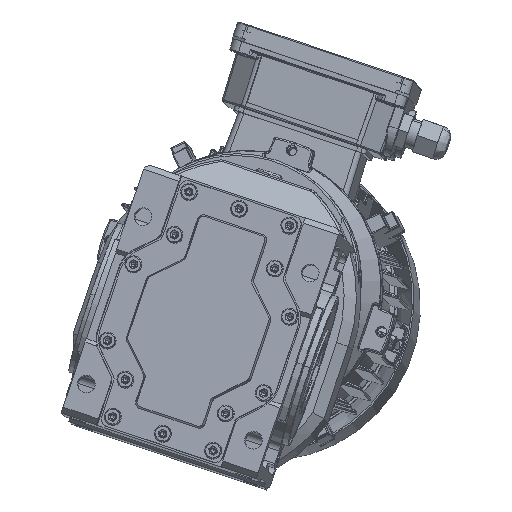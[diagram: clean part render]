
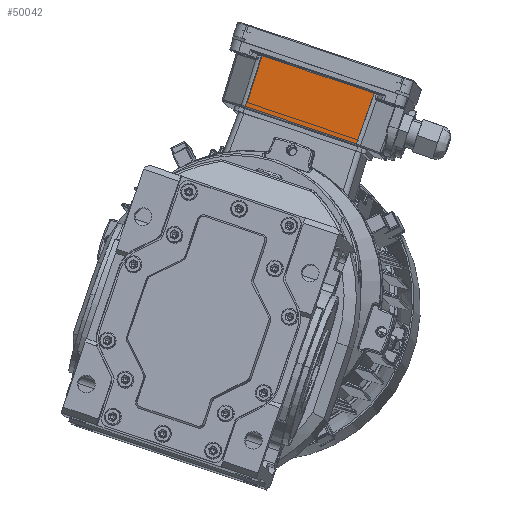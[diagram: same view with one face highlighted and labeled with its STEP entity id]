
A CAD part, top view. The second image highlights one B-rep face of the part: STEP entity #50042.
In plain terms, the highlighted planar face has unit normal (-0.057, 0.015, 0.998) as drawn and (0, -0.035, -0.999) by its records, which use the part's own axes.
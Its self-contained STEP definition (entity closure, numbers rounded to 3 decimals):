
#24000 = FACE_OUTER_BOUND ( 'NONE', #221983, .T. ) ;
#26113 = CARTESIAN_POINT ( 'NONE',  ( 29.944, 85.224, -85.357 ) ) ;
#26257 = CARTESIAN_POINT ( 'NONE',  ( -29.944, 85.224, -85.357 ) ) ;
#28368 = EDGE_CURVE ( 'NONE', #140409, #140436, #145910, .T. ) ;
#28587 = EDGE_CURVE ( 'NONE', #156645, #140409, #145952, .T. ) ;
#28654 = EDGE_CURVE ( 'NONE', #140436, #119755, #146165, .T. ) ;
#28673 = EDGE_CURVE ( 'NONE', #119755, #156645, #146155, .T. ) ;
#50042 = ADVANCED_FACE ( 'NONE', ( #24000 ), #155222, .F. ) ;
#100308 = CARTESIAN_POINT ( 'NONE',  ( 0., 85.224, -85.357 ) ) ;
#100324 = DIRECTION ( 'NONE',  ( 1., 0., 0. ) ) ;
#101788 = DIRECTION ( 'NONE',  ( 0.014, -0.999, 0.035 ) ) ;
#101875 = CARTESIAN_POINT ( 'NONE',  ( -30.416, 117.848, -86.496 ) ) ;
#102209 = DIRECTION ( 'NONE',  ( 0.014, 0.999, -0.035 ) ) ;
#102235 = CARTESIAN_POINT ( 'NONE',  ( 29.944, 85.224, -85.357 ) ) ;
#102315 = CARTESIAN_POINT ( 'NONE',  ( 0., 112.517, -86.31 ) ) ;
#102346 = DIRECTION ( 'NONE',  ( -1., 0., 0. ) ) ;
#119755 = VERTEX_POINT ( 'NONE', #193420 ) ;
#140409 = VERTEX_POINT ( 'NONE', #26257 ) ;
#140436 = VERTEX_POINT ( 'NONE', #26113 ) ;
#142268 = CARTESIAN_POINT ( 'NONE',  ( -30.339, 112.517, -86.31 ) ) ;
#145890 = VECTOR ( 'NONE', #100324, 1000. ) ;
#145910 = LINE ( 'NONE', #100308, #145890 ) ;
#145952 = LINE ( 'NONE', #101875, #146067 ) ;
#146067 = VECTOR ( 'NONE', #101788, 1000. ) ;
#146147 = VECTOR ( 'NONE', #102209, 1000. ) ;
#146155 = LINE ( 'NONE', #102315, #146157 ) ;
#146157 = VECTOR ( 'NONE', #102346, 1000. ) ;
#146165 = LINE ( 'NONE', #102235, #146147 ) ;
#151358 = ORIENTED_EDGE ( 'NONE', *, *, #28368, .F. ) ;
#151396 = ORIENTED_EDGE ( 'NONE', *, *, #28587, .F. ) ;
#151404 = ORIENTED_EDGE ( 'NONE', *, *, #28654, .F. ) ;
#151439 = ORIENTED_EDGE ( 'NONE', *, *, #28673, .F. ) ;
#155167 = CARTESIAN_POINT ( 'NONE',  ( 0., 117.93, -86.499 ) ) ;
#155221 = DIRECTION ( 'NONE',  ( 0., -0.999, 0.035 ) ) ;
#155222 = PLANE ( 'NONE',  #192719 ) ;
#155228 = DIRECTION ( 'NONE',  ( 0., 0.035, 0.999 ) ) ;
#156645 = VERTEX_POINT ( 'NONE', #142268 ) ;
#192719 = AXIS2_PLACEMENT_3D ( 'NONE', #155167, #155228, #155221 ) ;
#193420 = CARTESIAN_POINT ( 'NONE',  ( 30.339, 112.517, -86.31 ) ) ;
#221983 = EDGE_LOOP ( 'NONE', ( #151404, #151358, #151396, #151439 ) ) ;
